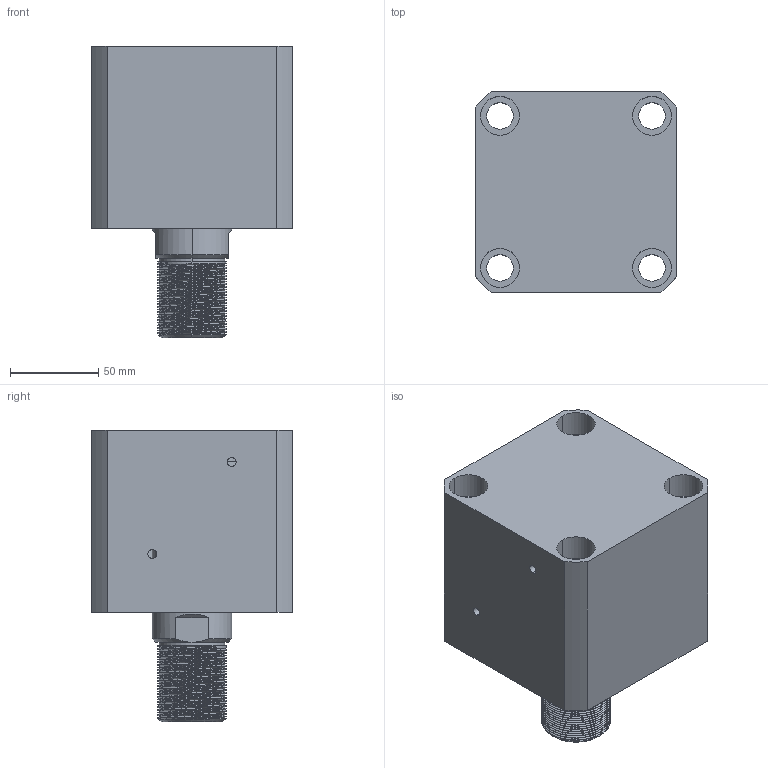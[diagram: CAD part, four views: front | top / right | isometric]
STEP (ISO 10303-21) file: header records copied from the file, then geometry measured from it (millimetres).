
FILE_DESCRIPTION (( 'STEP AP214' ), '1' );
FILE_NAME ('chtb-sdma80x25wasm.STEP', '2018-05-29T03:08:44', ( 'Windows' ), ( 'Microsoft' ), 'SwSTEP 2.0', 'SolidWorks 2015', '' );
FILE_SCHEMA (( 'AUTOMOTIVE_DESIGN' ));
Length unit declared in the file: millimetre
Products named in the file (4): CHTB-SDMA80X25NBT; CHTB-SD80X25WHSG; CHTB-SD80QG; chtb-sdma80x25wasm
Assembly tree (3 placements, depth 2):
  chtb-sdma80x25wasm
    CHTB-SD80QG
    CHTB-SD80X25WHSG
    CHTB-SDMA80X25NBT
Bounding box: 114 x 114 x 165 mm (x, y, z)
Volume: 1197655 mm3; surface area: 182514.1 mm2
Topology: 3 solids, 3 shells, 251 faces, 695 edges, 466 vertices
Faces by surface type: cylinder 163, plane 38, torus 18, bspline 16, cone 16
Entity records: 20277 total; most frequent: CARTESIAN_POINT 14301, ORIENTED_EDGE 1382, DIRECTION 1068, EDGE_CURVE 691, VERTEX_POINT 466, AXIS2_PLACEMENT_3D 433, EDGE_LOOP 289, FACE_OUTER_BOUND 251
